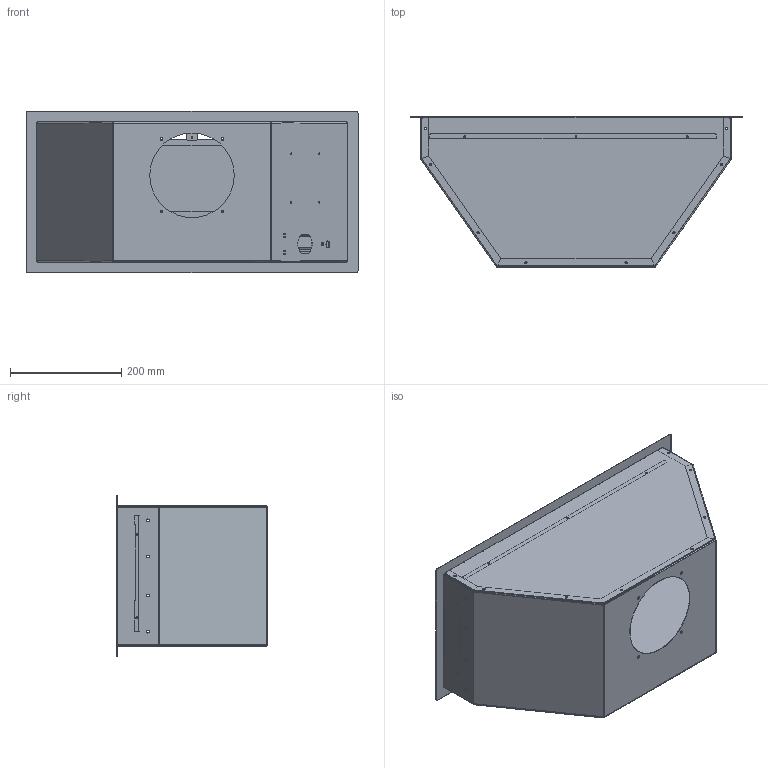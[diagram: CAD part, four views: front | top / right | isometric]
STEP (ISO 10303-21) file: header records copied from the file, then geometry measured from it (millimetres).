
FILE_DESCRIPTION (( 'STEP AP214' ), '1' );
FILE_NAME ('KSG6P4X.STEP', '2025-10-16T08:27:45', ( '' ), ( '' ), 'SwSTEP 2.0', 'SolidWorks 2025', '' );
FILE_SCHEMA (( 'AUTOMOTIVE_DESIGN' ));
Length unit declared in the file: millimetre
Products named in the file (12): 1800047; TG02779; IN02773A; 2602865; 2602778; 2602774A; KSG6P4X; 9811442A; 2602780A_Inox; 1720595_vetro; 9811444A; TG02773
Assembly tree (13 placements, depth 4):
  KSG6P4X
    9811444A
      IN02773A
        TG02773
        1720595_vetro
        2602774A
        2602865
      1800047  x2
    2602778
    TG02779  x2
    9811442A
      2602780A_Inox
Bounding box: 597 x 271.6 x 290 mm (x, y, z)
Volume: 781176.9 mm3; surface area: 1592107.6 mm2
Topology: 12 solids, 12 shells, 1301 faces, 3335 edges, 2118 vertices
Faces by surface type: plane 735, cylinder 506, bspline 52, torus 8
Entity records: 38806 total; most frequent: CARTESIAN_POINT 8911, DIRECTION 6101, ORIENTED_EDGE 6094, EDGE_CURVE 3047, LINE 2061, VECTOR 2061, AXIS2_PLACEMENT_3D 2020, VERTEX_POINT 1930
